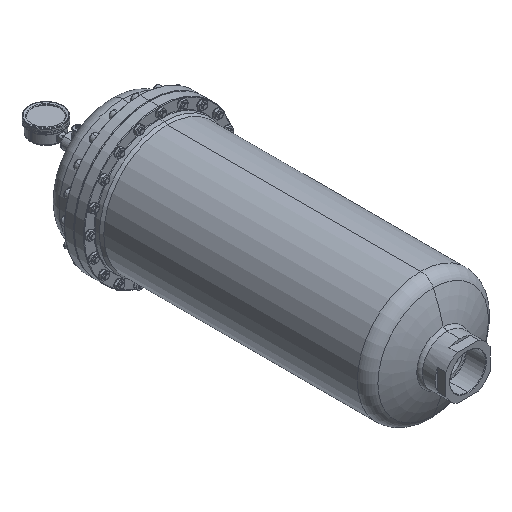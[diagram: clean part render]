
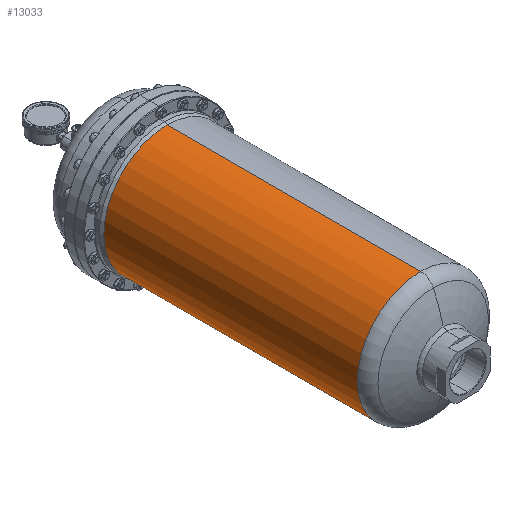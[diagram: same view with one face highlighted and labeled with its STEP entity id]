
A CAD part, isometric view. The second image highlights one B-rep face of the part: STEP entity #13033.
In plain terms, the highlighted cylindrical face has radius 128 mm (diameter 256 mm), a partial arc.
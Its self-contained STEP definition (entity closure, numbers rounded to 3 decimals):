
#2343 = DIRECTION ( 'NONE',  ( 0., 1., 0. ) ) ;
#10450 = EDGE_CURVE ( 'NONE', #51036, #16747, #30718, .T. ) ;
#10754 = CARTESIAN_POINT ( 'NONE',  ( 153.843, -204.046, 347.638 ) ) ;
#13033 = ADVANCED_FACE ( 'NONE', ( #38712 ), #18959, .T. ) ;
#13236 = EDGE_CURVE ( 'NONE', #49349, #16747, #27615, .T. ) ;
#14630 = DIRECTION ( 'NONE',  ( 0., 1., 0. ) ) ;
#15499 = CARTESIAN_POINT ( 'NONE',  ( 153.843, 320.31, 347.638 ) ) ;
#16649 = EDGE_CURVE ( 'NONE', #42548, #49349, #45095, .T. ) ;
#16747 = VERTEX_POINT ( 'NONE', #18466 ) ;
#18466 = CARTESIAN_POINT ( 'NONE',  ( 153.843, 320.31, 475.638 ) ) ;
#18959 = CYLINDRICAL_SURFACE ( 'NONE', #61803, 128. ) ;
#21787 = DIRECTION ( 'NONE',  ( 0., 0., 1. ) ) ;
#25410 = DIRECTION ( 'NONE',  ( 0., 1., 0. ) ) ;
#26303 = CARTESIAN_POINT ( 'NONE',  ( 153.843, -192.556, 475.638 ) ) ;
#26784 = CIRCLE ( 'NONE', #35081, 128. ) ;
#27408 = EDGE_LOOP ( 'NONE', ( #55886, #39930, #39008, #31977 ) ) ;
#27615 = CIRCLE ( 'NONE', #56666, 128. ) ;
#30718 = LINE ( 'NONE', #59999, #38595 ) ;
#31977 = ORIENTED_EDGE ( 'NONE', *, *, #13236, .F. ) ;
#35081 = AXIS2_PLACEMENT_3D ( 'NONE', #41237, #2343, #21787 ) ;
#35299 = DIRECTION ( 'NONE',  ( 0., 0., 1. ) ) ;
#35357 = VECTOR ( 'NONE', #14630, 1000. ) ;
#36215 = DIRECTION ( 'NONE',  ( 0., 1., 0. ) ) ;
#38595 = VECTOR ( 'NONE', #36215, 1000. ) ;
#38712 = FACE_OUTER_BOUND ( 'NONE', #27408, .T. ) ;
#39008 = ORIENTED_EDGE ( 'NONE', *, *, #10450, .T. ) ;
#39930 = ORIENTED_EDGE ( 'NONE', *, *, #59730, .T. ) ;
#41237 = CARTESIAN_POINT ( 'NONE',  ( 153.843, -192.556, 347.638 ) ) ;
#42548 = VERTEX_POINT ( 'NONE', #54776 ) ;
#42862 = CARTESIAN_POINT ( 'NONE',  ( 153.843, 320.31, 219.638 ) ) ;
#45095 = LINE ( 'NONE', #58839, #35357 ) ;
#49349 = VERTEX_POINT ( 'NONE', #42862 ) ;
#50389 = DIRECTION ( 'NONE',  ( 0., 0., 1. ) ) ;
#51036 = VERTEX_POINT ( 'NONE', #26303 ) ;
#54776 = CARTESIAN_POINT ( 'NONE',  ( 153.843, -192.556, 219.638 ) ) ;
#55886 = ORIENTED_EDGE ( 'NONE', *, *, #16649, .F. ) ;
#56666 = AXIS2_PLACEMENT_3D ( 'NONE', #15499, #58189, #35299 ) ;
#58189 = DIRECTION ( 'NONE',  ( 0., 1., 0. ) ) ;
#58839 = CARTESIAN_POINT ( 'NONE',  ( 153.843, -204.046, 219.638 ) ) ;
#59730 = EDGE_CURVE ( 'NONE', #42548, #51036, #26784, .T. ) ;
#59999 = CARTESIAN_POINT ( 'NONE',  ( 153.843, -204.046, 475.638 ) ) ;
#61803 = AXIS2_PLACEMENT_3D ( 'NONE', #10754, #25410, #50389 ) ;
